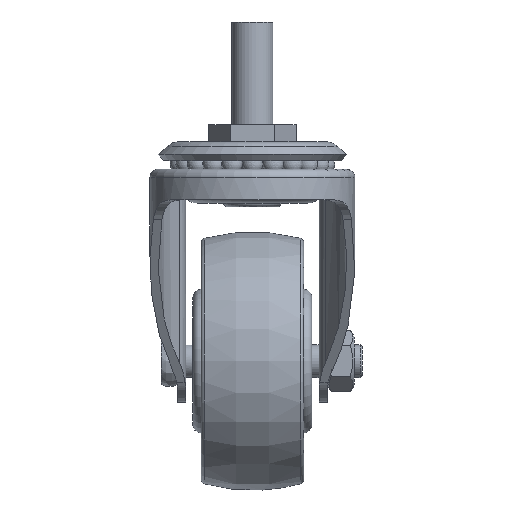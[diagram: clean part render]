
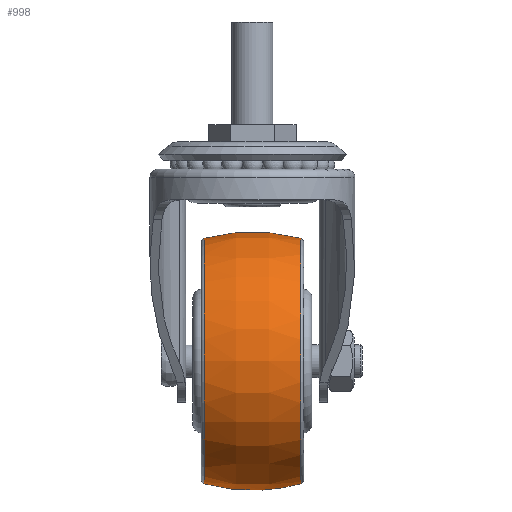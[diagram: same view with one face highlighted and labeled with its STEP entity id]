
A CAD part, left-side view. The second image highlights one B-rep face of the part: STEP entity #998.
In plain terms, the highlighted free-form (B-spline) face has degree [3, 3] with [4, 7] control points.
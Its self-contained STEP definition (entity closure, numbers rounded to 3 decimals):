
#40=(
BOUNDED_SURFACE()
B_SPLINE_SURFACE(3,3,((#22385,#22386,#22387,#22388,#22389,#22390,#22391),
(#22392,#22393,#22394,#22395,#22396,#22397,#22398),(#22399,#22400,#22401,
#22402,#22403,#22404,#22405),(#22406,#22407,#22408,#22409,#22410,#22411,
#22412)),.UNSPECIFIED.,.F.,.T.,.F.)
B_SPLINE_SURFACE_WITH_KNOTS((4,4),(1,3,3,3,1),(0.,1.),(-0.5,0.,0.5,1.,1.5),
 .UNSPECIFIED.)
GEOMETRIC_REPRESENTATION_ITEM()
RATIONAL_B_SPLINE_SURFACE(((1.,0.333,0.333,1.,0.333,
0.333,1.),(0.977,0.326,0.326,
0.977,0.326,0.326,0.977),
(0.977,0.326,0.326,0.977,
0.326,0.326,0.977),(1.,0.333,
0.333,1.,0.333,0.333,1.)))
REPRESENTATION_ITEM('')
SURFACE()
);
#998=ADVANCED_FACE('',(#2125,#2126),#40,.T.);
#2125=FACE_BOUND('',#2763,.T.);
#2126=FACE_BOUND('',#2764,.T.);
#2763=EDGE_LOOP('',(#5841));
#2764=EDGE_LOOP('',(#5842));
#5841=ORIENTED_EDGE('',*,*,#8058,.T.);
#5842=ORIENTED_EDGE('',*,*,#8059,.T.);
#6808=VERTEX_POINT('',#22382);
#6809=VERTEX_POINT('',#22384);
#8058=EDGE_CURVE('',#6808,#6808,#8438,.T.);
#8059=EDGE_CURVE('',#6809,#6809,#8439,.T.);
#8438=CIRCLE('',#9212,29.936);
#8439=CIRCLE('',#9213,29.936);
#9212=AXIS2_PLACEMENT_3D('',#22381,#11059,#11060);
#9213=AXIS2_PLACEMENT_3D('',#22383,#11061,#11062);
#11059=DIRECTION('',(0.,1.,0.));
#11060=DIRECTION('',(0.,0.,-1.));
#11061=DIRECTION('',(0.,-1.,0.));
#11062=DIRECTION('',(0.,0.,1.));
#22381=CARTESIAN_POINT('',(26.,-11.761,-82.7));
#22382=CARTESIAN_POINT('',(26.,-11.761,-112.636));
#22383=CARTESIAN_POINT('',(26.,11.761,-82.7));
#22384=CARTESIAN_POINT('',(26.,11.761,-52.764));
#22385=CARTESIAN_POINT('',(26.,11.761,-112.636));
#22386=CARTESIAN_POINT('',(-33.872,11.761,-112.636));
#22387=CARTESIAN_POINT('',(-33.872,11.761,-52.764));
#22388=CARTESIAN_POINT('',(26.,11.761,-52.764));
#22389=CARTESIAN_POINT('',(85.872,11.761,-52.764));
#22390=CARTESIAN_POINT('',(85.872,11.761,-112.636));
#22391=CARTESIAN_POINT('',(26.,11.761,-112.636));
#22392=CARTESIAN_POINT('',(26.,4.013,-114.734));
#22393=CARTESIAN_POINT('',(-38.068,4.013,-114.734));
#22394=CARTESIAN_POINT('',(-38.068,4.013,-50.666));
#22395=CARTESIAN_POINT('',(26.,4.013,-50.666));
#22396=CARTESIAN_POINT('',(90.068,4.013,-50.666));
#22397=CARTESIAN_POINT('',(90.068,4.013,-114.734));
#22398=CARTESIAN_POINT('',(26.,4.013,-114.734));
#22399=CARTESIAN_POINT('',(26.,-4.013,-114.734));
#22400=CARTESIAN_POINT('',(-38.068,-4.013,-114.734));
#22401=CARTESIAN_POINT('',(-38.068,-4.013,-50.666));
#22402=CARTESIAN_POINT('',(26.,-4.013,-50.666));
#22403=CARTESIAN_POINT('',(90.068,-4.013,-50.666));
#22404=CARTESIAN_POINT('',(90.068,-4.013,-114.734));
#22405=CARTESIAN_POINT('',(26.,-4.013,-114.734));
#22406=CARTESIAN_POINT('',(26.,-11.761,-112.636));
#22407=CARTESIAN_POINT('',(-33.872,-11.761,-112.636));
#22408=CARTESIAN_POINT('',(-33.872,-11.761,-52.764));
#22409=CARTESIAN_POINT('',(26.,-11.761,-52.764));
#22410=CARTESIAN_POINT('',(85.872,-11.761,-52.764));
#22411=CARTESIAN_POINT('',(85.872,-11.761,-112.636));
#22412=CARTESIAN_POINT('',(26.,-11.761,-112.636));
